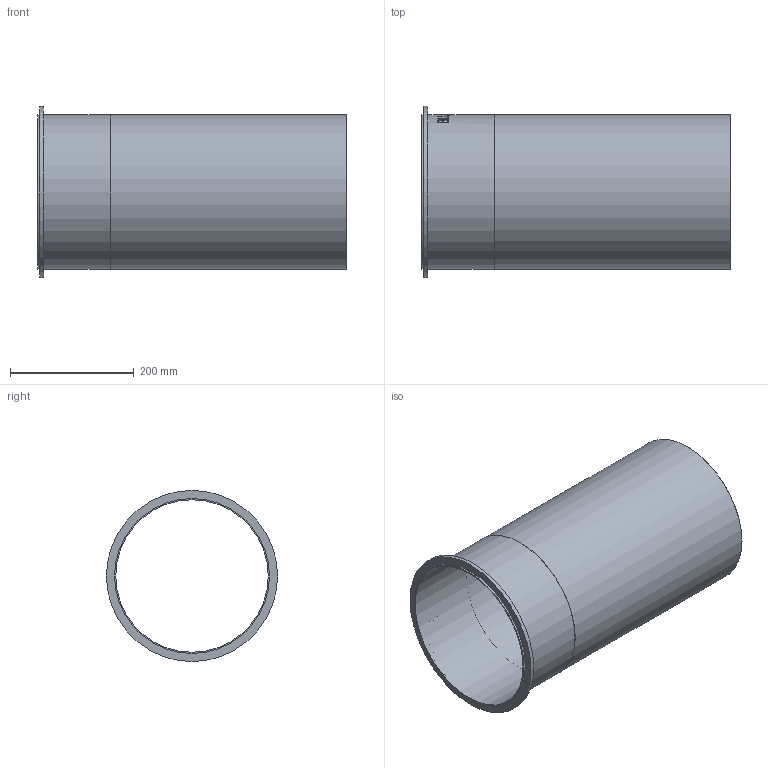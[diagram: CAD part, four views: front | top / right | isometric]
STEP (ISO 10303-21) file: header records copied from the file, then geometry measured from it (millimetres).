
FILE_DESCRIPTION((''),'2;1');
FILE_NAME('I:\WATTS\3D_CAD\3D_CAD_Models\Blucher_Drains\P_StraightPipe\WebsiteFiles\3D\STEP\P10-1.6-316.stp','2009-12-03T09:17:45',('menesek'),(''),'Autodesk Inventor 2010','Autodesk Inventor 2010','');
FILE_SCHEMA(('AUTOMOTIVE_DESIGN { 1 0 10303 214 1 1 1 1 }'));
Length unit declared in the file: inch
Products named in the file (1): P10-1.6-316
Bounding box: 500 x 277.11 x 277.11 mm (x, y, z)
Volume: 710383.7 mm3; surface area: 806353.7 mm2
Topology: 1 solids, 1 shells, 109 faces, 285 edges, 190 vertices
Faces by surface type: plane 59, bspline 34, cylinder 16
Full cylindrical faces by diameter (mm): 246.888 x1, 249.936 x1, 250.952 x2, 277.114 x1
Entity records: 14221 total; most frequent: CARTESIAN_POINT 11843, ORIENTED_EDGE 548, DIRECTION 356, EDGE_CURVE 274, VERTEX_POINT 186, EDGE_LOOP 128, AXIS2_PLACEMENT_3D 120, VECTOR 116
